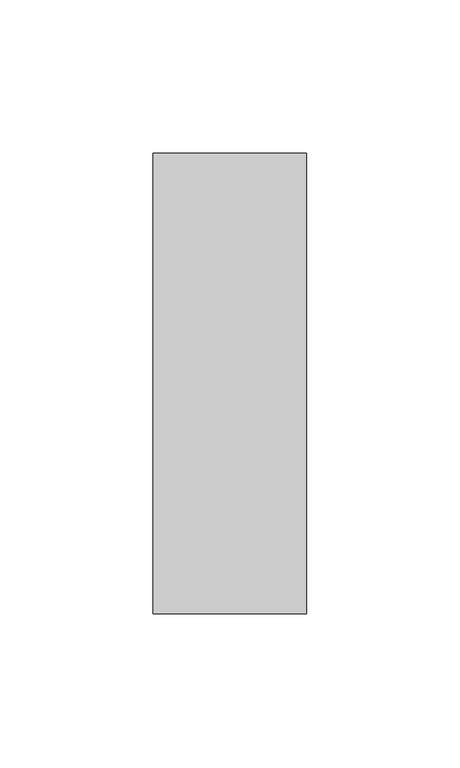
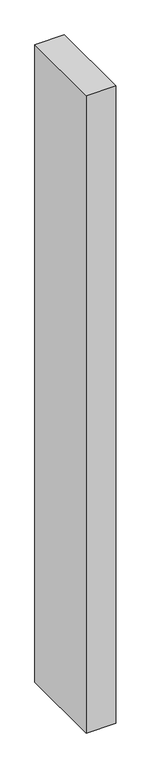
"""IFC4 building model written with IfcOpenShell, lengths in millimetres: member geometry, Прямоугольный импост : 50 x 150 мм."""

from ifc_helpers import new_model, si_unit, frame, origin, place, context, project, spatial, polyline, outline, extrude, source, transform, mapped, element, save


def member_903d3bd9(model_context):
    return source(origin(), model_context, "Body", "SweptSolid", [
        extrude(outline(polyline([(25.0, 75.0), (25.0, -75.0), (-25.0, -75.0), (-25.0, 75.0), (25.0, 75.0)])), frame((0.0, 0.0, -1139.0022818), z_axis=(0.0, 0.0, 1.0), x_axis=(1.0, 0.0, 0.0)), (0.0, 0.0, 1.0), 1139.0022818),
    ])


if __name__ == "__main__":
    model = new_model("IFC4")
    model_context = context("Model", 3, world=origin())
    ifc_project = project(units=[si_unit("LENGTHUNIT", "METRE", prefix="MILLI")], contexts=[model_context])
    site = spatial("IfcSite", under=ifc_project)
    building = spatial("IfcBuilding", under=site)
    placement = place(None, origin())
    member_shape = member_903d3bd9(model_context)
    element("IfcMember", 1, ObjectType="Прямоугольный импост : 50 x 150 мм", at=placement, inside=building, context=model_context, shape_type="MappedRepresentation", body=[
        mapped(member_shape, transform((0.0, 0.0, 0.0), x_axis=(1.0, 0.0, 0.0), y_axis=(0.0, 1.0, 0.0), z_axis=(0.0, 0.0, 1.0))),
    ])
    save(model, "model.ifc")
